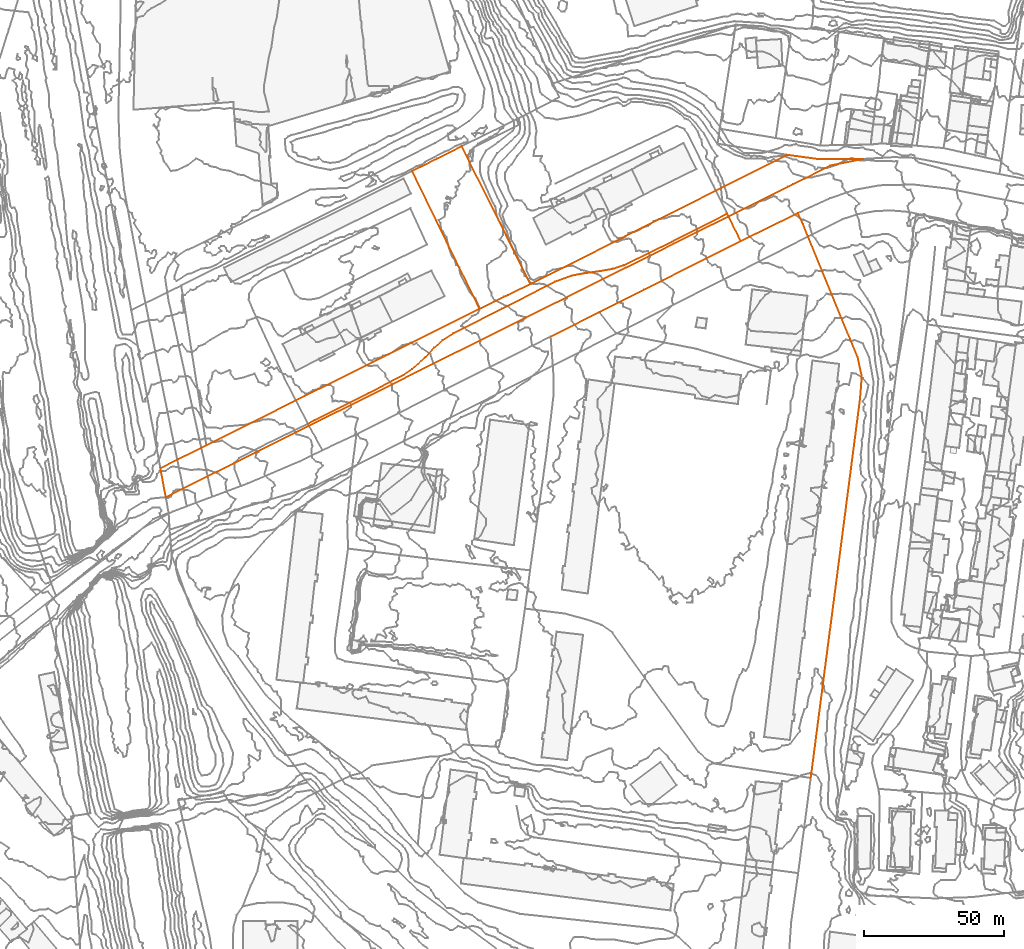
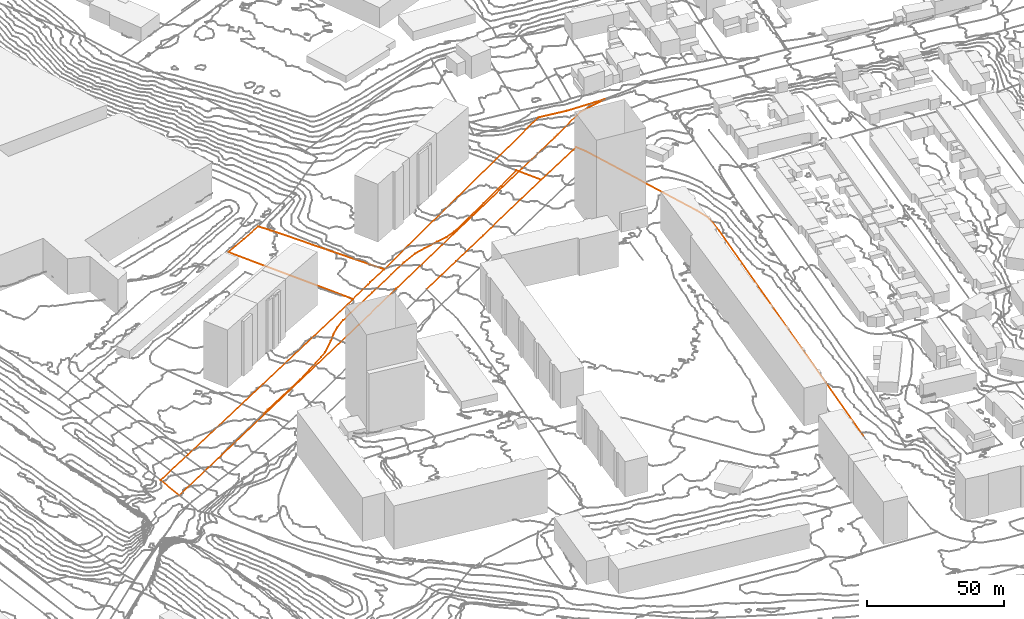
# Not in any storey, part 319 of 419: 8 proxies.
"""IFC2X3 model written with IfcOpenShell, lengths in metres."""

from ifc_helpers import new_model, entity, si_unit, frame, origin_with_axes, place, context, subcontext, project, element, save


model = new_model("IFC2X3")

# Units and contexts
model_context = context("Model", 3, precision=1e-05, world=origin_with_axes())
body_context = subcontext(model_context, "Body", "Model", "MODEL_VIEW")
ifc_project = project(units=[si_unit("AREAUNIT", "SQUARE_METRE"), si_unit("LENGTHUNIT", "METRE")], contexts=[model_context])

# Proxies
proxy_1_placement = place(None, frame((420.2920204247, 841.3976909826, 37.2), z_axis=(0.0, 0.0, 1.0), x_axis=(1.0, 0.0, 0.0)))
element("IfcBuildingElementProxy", 1, at=proxy_1_placement, Name="Route 30", ObjectType="NOTDEFINED", context=body_context, shape_type="GeometricCurveSet", body=[
    entity("IfcGeometricCurveSet", [entity("IfcPolyline", [entity("IfcCartesianPoint", [0.0, 0.0, 0.0]), entity("IfcCartesianPoint", [20.5, 10.0999999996, 1.3])])]),
])
proxy_2_placement = place(None, frame((265.1920204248, 775.9976909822, 26.7), z_axis=(0.0, 0.0, 1.0), x_axis=(1.0, 0.0, 0.0)))
element("IfcBuildingElementProxy", 2, at=proxy_2_placement, Name="Route 106", ObjectType="NOTDEFINED", context=body_context, shape_type="GeometricCurveSet", body=[
    entity("IfcGeometricCurveSet", [entity("IfcPolyline", [entity("IfcCartesianPoint", [150.3, 75.3000000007, 10.3]), entity("IfcCartesianPoint", [130.6, 65.3000000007, 8.7]), entity("IfcCartesianPoint", [113.3, 56.8000000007, 7.1]), entity("IfcCartesianPoint", [109.3, 55.5, 6.9]), entity("IfcCartesianPoint", [104.9, 54.7000000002, 6.9]), entity("IfcCartesianPoint", [99.2000000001, 53.9000000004, 6.4]), entity("IfcCartesianPoint", [94.6, 53.1000000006, 6.2]), entity("IfcCartesianPoint", [88.6, 50.9000000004, 5.5]), entity("IfcCartesianPoint", [69.6, 41.2000000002, 4.7]), entity("IfcCartesianPoint", [52.2000000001, 32.4000000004, 3.7]), entity("IfcCartesianPoint", [48.3, 29.9000000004, 3.3]), entity("IfcCartesianPoint", [45.2000000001, 27.2000000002, 3.2]), entity("IfcCartesianPoint", [42.2000000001, 23.9000000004, 3.0]), entity("IfcCartesianPoint", [37.3, 19.6000000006, 2.5]), entity("IfcCartesianPoint", [34.3, 17.5, 2.5]), entity("IfcCartesianPoint", [21.7000000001, 10.9000000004, 1.0]), entity("IfcCartesianPoint", [2.4, 1.2000000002, 0.1]), entity("IfcCartesianPoint", [0.0, 0.0, 0.0])])]),
])
proxy_3_placement = place(None, frame((352.1920204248, 807.1976909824, 32.9), z_axis=(0.0, 0.0, 1.0), x_axis=(1.0, 0.0, 0.0)))
element("IfcBuildingElementProxy", 3, at=proxy_3_placement, Name="Route 116", ObjectType="NOTDEFINED", context=body_context, shape_type="GeometricCurveSet", body=[
    entity("IfcGeometricCurveSet", [entity("IfcPolyline", [entity("IfcCartesianPoint", [0.0, 0.0, 0.0]), entity("IfcCartesianPoint", [17.5, 8.7999999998, 1.1])])]),
])
proxy_4_placement = place(None, frame((369.6920204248, 815.9976909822, 34.0), z_axis=(0.0, 0.0, 1.0), x_axis=(1.0, 0.0, 0.0)))
element("IfcBuildingElementProxy", 4, at=proxy_4_placement, Name="Route 142", ObjectType="NOTDEFINED", context=body_context, shape_type="GeometricCurveSet", body=[
    entity("IfcGeometricCurveSet", [entity("IfcPolyline", [entity("IfcCartesianPoint", [0.0, 0.0, 0.0]), entity("IfcCartesianPoint", [15.9, 8.0, 1.0]), entity("IfcCartesianPoint", [50.6, 25.4000000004, 3.2])])]),
])
proxy_5_placement = place(None, frame((440.7920204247, 851.4976909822, 38.5), z_axis=(0.0, 0.0, 1.0), x_axis=(1.0, 0.0, 0.0)))
element("IfcBuildingElementProxy", 5, at=proxy_5_placement, Name="Route 155", ObjectType="NOTDEFINED", context=body_context, shape_type="GeometricCurveSet", body=[
    entity("IfcGeometricCurveSet", [entity("IfcPolyline", [entity("IfcCartesianPoint", [0.0, 0.0, 0.0]), entity("IfcCartesianPoint", [1.8, -4.0, 0.0]), entity("IfcCartesianPoint", [21.4, -51.6999999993, -4.6]), entity("IfcCartesianPoint", [22.9, -58.3999999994, -4.7]), entity("IfcCartesianPoint", [22.3, -66.3999999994, -4.9]), entity("IfcCartesianPoint", [4.6000000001, -202.5, -7.7])])]),
])
proxy_6_placement = place(None, frame((415.4920204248, 851.2976909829, 37.1), z_axis=(0.0, 0.0, 1.0), x_axis=(1.0, 0.0, 0.0)))
element("IfcBuildingElementProxy", 6, at=proxy_6_placement, Name="Route 209", ObjectType="NOTDEFINED", context=body_context, shape_type="GeometricCurveSet", body=[
    entity("IfcGeometricCurveSet", [entity("IfcPolyline", [entity("IfcCartesianPoint", [4.7999999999, -9.9000000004, 0.1]), entity("IfcCartesianPoint", [0.0, 0.0, 0.0])])]),
])
proxy_7_placement = place(None, frame((212.3220204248, 760.0376909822, 25.0752436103), z_axis=(0.0, 0.0, 1.0), x_axis=(1.0, 0.0, 0.0)))
element("IfcBuildingElementProxy", 7, at=proxy_7_placement, Name="Cadastre 304", ObjectType="NOTDEFINED", context=body_context, shape_type="GeometricCurveSet", body=[
    entity("IfcGeometricCurveSet", [entity("IfcPolyline", [entity("IfcCartesianPoint", [0.0, 0.0, 0.0]), entity("IfcCartesianPoint", [16.5, 8.25, 0.6930630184]), entity("IfcCartesianPoint", [114.36, 57.1300000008, 6.2452392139]), entity("IfcCartesianPoint", [123.2100000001, 61.4300000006, 7.1351554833]), entity("IfcCartesianPoint", [124.6000000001, 62.1200000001, 7.2185797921]), entity("IfcCartesianPoint", [132.62, 66.0200000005, 7.7674268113]), entity("IfcCartesianPoint", [224.6000000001, 112.29, 15.4045784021]), entity("IfcCartesianPoint", [235.8200000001, 110.7400000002, 15.4201860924]), entity("IfcCartesianPoint", [251.89, 110.8200000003, 14.9443236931]), entity("IfcCartesianPoint", [240.0800000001, 108.4400000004, 14.79180355]), entity("IfcCartesianPoint", [226.66, 101.7400000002, 13.3822741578]), entity("IfcCartesianPoint", [224.86, 100.8500000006, 13.2880923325]), entity("IfcCartesianPoint", [166.6800000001, 71.8100000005, 9.4689920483]), entity("IfcCartesianPoint", [130.87, 53.9300000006, 7.0308760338]), entity("IfcCartesianPoint", [1.9500000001, -10.3999999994, -1.1863791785]), entity("IfcCartesianPoint", [0.0, 0.0, 0.0])])]),
])
proxy_8_placement = place(None, frame((302.5520204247, 866.5676909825, 30.8095794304), z_axis=(0.0, 0.0, 1.0), x_axis=(1.0, 0.0, 0.0)))
element("IfcBuildingElementProxy", 8, at=proxy_8_placement, Name="Cadastre 306", ObjectType="NOTDEFINED", context=body_context, shape_type="GeometricCurveSet", body=[
    entity("IfcGeometricCurveSet", [entity("IfcPolyline", [entity("IfcCartesianPoint", [0.0, 0.0, 0.0]), entity("IfcCartesianPoint", [8.9600000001, 4.4199999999, -0.032807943]), entity("IfcCartesianPoint", [17.76, 8.8700000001, -0.0885068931]), entity("IfcCartesianPoint", [20.2100000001, 4.0499999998, 0.1747401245]), entity("IfcCartesianPoint", [20.55, 3.25, 0.2816521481]), entity("IfcCartesianPoint", [42.39, -40.5099999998, 2.0330909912]), entity("IfcCartesianPoint", [34.3700000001, -44.4100000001, 1.484243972]), entity("IfcCartesianPoint", [32.9800000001, -45.0999999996, 1.4008196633]), entity("IfcCartesianPoint", [24.13, -49.3999999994, 0.5109033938]), entity("IfcCartesianPoint", [0.0, 0.0, 0.0])])]),
])

save(model, "model.ifc")
